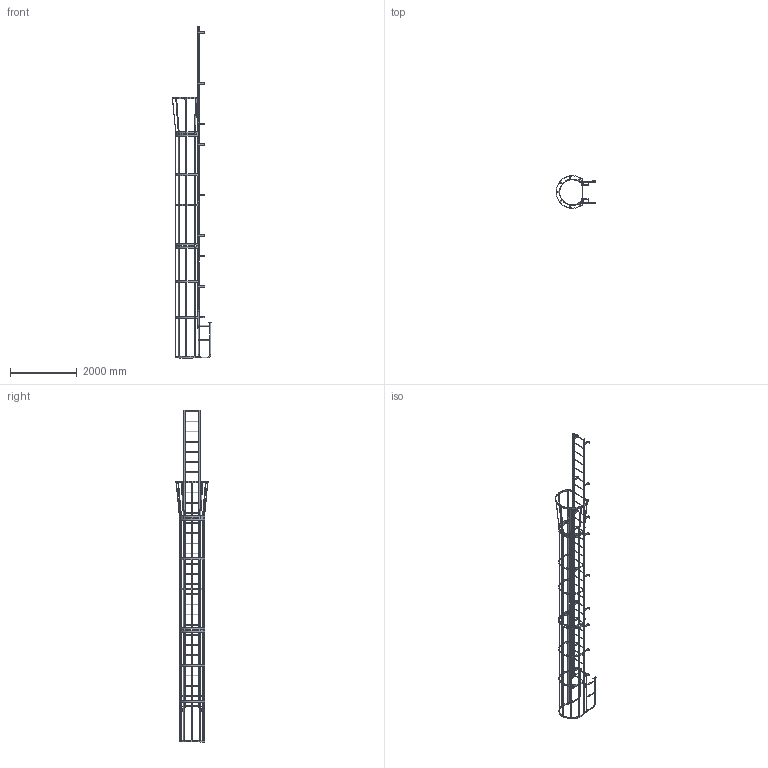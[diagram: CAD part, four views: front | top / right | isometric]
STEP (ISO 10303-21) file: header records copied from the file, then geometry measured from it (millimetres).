
FILE_DESCRIPTION(/* description */ (''),/* implementation_level */ '2;1');
FILE_NAME(/* name */ 'P:\MIKEL & KAREN\D0570196-16 F30WC SIMPLIFIED PART.stp',/* time_stamp */ '2018-07-03T08:22:30-04:00',/* author */ ('stephanie'),/* organization */ (''),/* preprocessor_version */ 'ST-DEVELOPER v16.1',/* originating_system */ 'Autodesk Inventor 2016',/* authorisation */ '');
FILE_SCHEMA (('AUTOMOTIVE_DESIGN { 1 0 10303 214 3 1 1 }'));
Length unit declared in the file: centimetre
Products named in the file (1): D0570196-16 F30WC SIMPLIFIED PART
Bounding box: 1195.62 x 977.88 x 9953.62 mm (x, y, z)
Volume: 33281017.5 mm3; surface area: 12639306.8 mm2
Topology: 40 solids, 40 shells, 1065 faces, 3243 edges, 2110 vertices
Faces by surface type: plane 696, cylinder 361, torus 8
Full cylindrical faces by diameter (mm): 10.319 x4, 14.287 x22, 19.05 x30, 22.098 x10, 22.225 x60, 25.4 x10
Entity records: 36939 total; most frequent: CARTESIAN_POINT 6503, ORIENTED_EDGE 6152, DIRECTION 6024, EDGE_CURVE 3013, LINE 2102, VECTOR 2102, VERTEX_POINT 2024, AXIS2_PLACEMENT_3D 1961
